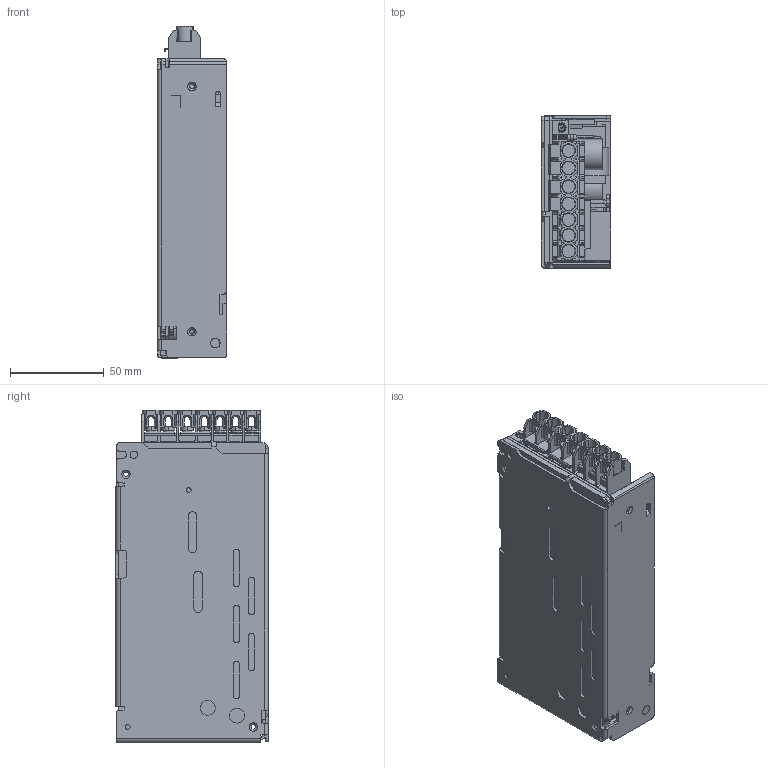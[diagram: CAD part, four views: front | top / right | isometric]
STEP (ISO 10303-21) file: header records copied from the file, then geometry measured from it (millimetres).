
FILE_DESCRIPTION (( 'STEP AP214' ), '1' );
FILE_NAME ('hws150a_outline.STEP', '2022-08-23T04:42:42', ( '' ), ( '' ), 'SwSTEP 2.0', 'SolidWorks 2020', '' );
FILE_SCHEMA (( 'AUTOMOTIVE_DESIGN' ));
Length unit declared in the file: millimetre
Products named in the file (1): hws150a_outline
Bounding box: 37.1 x 81.5 x 177.3 mm (x, y, z)
Volume: 198470.1 mm3; surface area: 110022.9 mm2
Topology: 3 solids, 5 shells, 2956 faces, 8309 edges, 5370 vertices
Faces by surface type: plane 1870, cylinder 795, bspline 109, cone 103, torus 78, sphere 1
Entity records: 137494 total; most frequent: CARTESIAN_POINT 30004, ORIENTED_EDGE 16430, DIRECTION 14440, EDGE_CURVE 8215, VECTOR 5536, LINE 5536, VERTEX_POINT 5368, AXIS2_PLACEMENT_3D 4452
